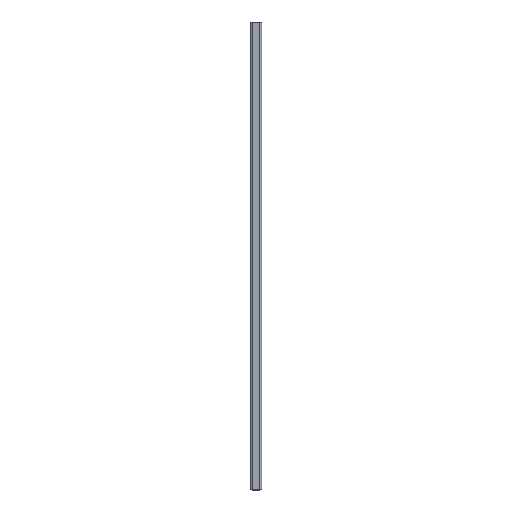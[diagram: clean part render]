
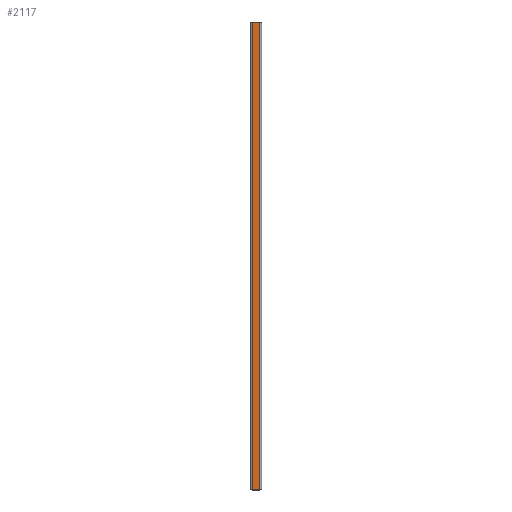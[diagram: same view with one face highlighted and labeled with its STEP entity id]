
A CAD part, top view. The second image highlights one B-rep face of the part: STEP entity #2117.
In plain terms, the highlighted planar face has unit normal (0, 0, 1).
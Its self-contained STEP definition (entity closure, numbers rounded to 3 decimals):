
#65 = EDGE_CURVE ( 'NONE', #1710, #1714, #3069, .T. ) ;
#361 = PLANE ( 'NONE',  #1237 ) ;
#362 = CARTESIAN_POINT ( 'NONE',  ( 0., 382.25, 19. ) ) ;
#363 = DIRECTION ( 'NONE',  ( 0., 0., -1. ) ) ;
#364 = DIRECTION ( 'NONE',  ( -1., 0., 0. ) ) ;
#683 = LINE ( 'NONE', #684, #1032 ) ;
#684 = CARTESIAN_POINT ( 'NONE',  ( 15., 382.25, 19. ) ) ;
#685 = DIRECTION ( 'NONE',  ( 0., -1., 0. ) ) ;
#867 = LINE ( 'NONE', #868, #1117 ) ;
#868 = CARTESIAN_POINT ( 'NONE',  ( 3.5, 382.25, 19. ) ) ;
#869 = DIRECTION ( 'NONE',  ( 0., -1., 0. ) ) ;
#1032 = VECTOR ( 'NONE', #685, 1000. ) ;
#1117 = VECTOR ( 'NONE', #869, 1000. ) ;
#1192 = EDGE_CURVE ( 'NONE', #1712, #1706, #2565, .T. ) ;
#1237 = AXIS2_PLACEMENT_3D ( 'NONE', #362, #363, #364 ) ;
#1243 = FACE_OUTER_BOUND ( 'NONE', #3432, .T. ) ;
#1286 = CARTESIAN_POINT ( 'NONE',  ( 15., 382.25, 19. ) ) ;
#1288 = CARTESIAN_POINT ( 'NONE',  ( 3.5, -382.25, 19. ) ) ;
#1290 = CARTESIAN_POINT ( 'NONE',  ( 3.5, 382.25, 19. ) ) ;
#1294 = CARTESIAN_POINT ( 'NONE',  ( 15., -382.25, 19. ) ) ;
#1400 = ORIENTED_EDGE ( 'NONE', *, *, #2815, .T. ) ;
#1402 = ORIENTED_EDGE ( 'NONE', *, *, #2759, .F. ) ;
#1403 = ORIENTED_EDGE ( 'NONE', *, *, #1192, .T. ) ;
#1405 = ORIENTED_EDGE ( 'NONE', *, *, #65, .F. ) ;
#1706 = VERTEX_POINT ( 'NONE', #1294 ) ;
#1710 = VERTEX_POINT ( 'NONE', #1290 ) ;
#1712 = VERTEX_POINT ( 'NONE', #1288 ) ;
#1714 = VERTEX_POINT ( 'NONE', #1286 ) ;
#1834 = VECTOR ( 'NONE', #2563, 1000. ) ;
#1877 = VECTOR ( 'NONE', #3067, 1000. ) ;
#2117 = ADVANCED_FACE ( 'NONE', ( #1243 ), #361, .F. ) ;
#2563 = DIRECTION ( 'NONE',  ( 1., 0., 0. ) ) ;
#2564 = CARTESIAN_POINT ( 'NONE',  ( 0., -382.25, 19. ) ) ;
#2565 = LINE ( 'NONE', #2564, #1834 ) ;
#2759 = EDGE_CURVE ( 'NONE', #1714, #1706, #683, .T. ) ;
#2815 = EDGE_CURVE ( 'NONE', #1710, #1712, #867, .T. ) ;
#3067 = DIRECTION ( 'NONE',  ( 1., 0., 0. ) ) ;
#3068 = CARTESIAN_POINT ( 'NONE',  ( 0., 382.25, 19. ) ) ;
#3069 = LINE ( 'NONE', #3068, #1877 ) ;
#3432 = EDGE_LOOP ( 'NONE', ( #1403, #1402, #1405, #1400 ) ) ;
